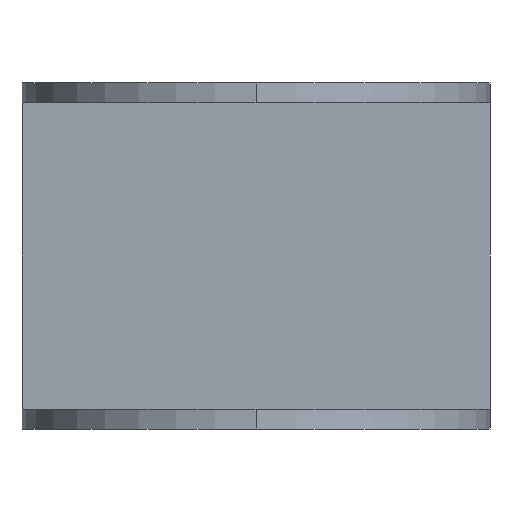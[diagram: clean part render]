
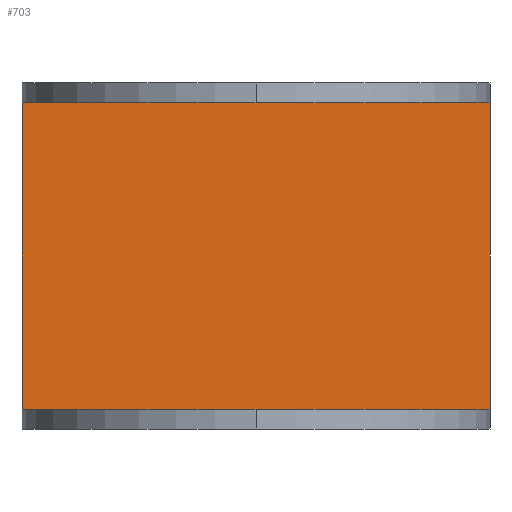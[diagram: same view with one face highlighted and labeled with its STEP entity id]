
A CAD part, front view. The second image highlights one B-rep face of the part: STEP entity #703.
In plain terms, the highlighted planar face has unit normal (0, -1, 0).
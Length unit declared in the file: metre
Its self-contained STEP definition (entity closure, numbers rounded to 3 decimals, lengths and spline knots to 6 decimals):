
#100=ORIENTED_EDGE('',*,*,#276,.F.);
#101=ORIENTED_EDGE('',*,*,#277,.T.);
#102=ORIENTED_EDGE('',*,*,#278,.T.);
#103=ORIENTED_EDGE('',*,*,#279,.F.);
#276=EDGE_CURVE('',#364,#365,#436,.T.);
#277=EDGE_CURVE('',#364,#366,#437,.T.);
#278=EDGE_CURVE('',#366,#367,#438,.T.);
#279=EDGE_CURVE('',#365,#367,#439,.T.);
#364=VERTEX_POINT('',#1081);
#365=VERTEX_POINT('',#1082);
#366=VERTEX_POINT('',#1084);
#367=VERTEX_POINT('',#1086);
#436=LINE('',#1080,#468);
#437=LINE('',#1083,#469);
#438=LINE('',#1085,#470);
#439=LINE('',#1087,#471);
#468=VECTOR('',#857,1.);
#469=VECTOR('',#858,1.);
#470=VECTOR('',#859,1.);
#471=VECTOR('',#860,1.);
#497=EDGE_LOOP('',(#100,#101,#102,#103));
#595=FACE_BOUND('',#497,.T.);
#693=PLANE('',#754);
#703=ADVANCED_FACE('',(#595),#693,.F.);
#754=AXIS2_PLACEMENT_3D('',#1079,#855,#856);
#855=DIRECTION('',(0.,1.,0.));
#856=DIRECTION('',(0.,0.,1.));
#857=DIRECTION('',(1.,0.,0.));
#858=DIRECTION('',(0.,0.,-1.));
#859=DIRECTION('',(1.,0.,0.));
#860=DIRECTION('',(0.,0.,-1.));
#1079=CARTESIAN_POINT('',(0.0375,0.09,0.052345));
#1080=CARTESIAN_POINT('',(0.0375,0.09,0.052305));
#1081=CARTESIAN_POINT('',(0.,0.09,0.052305));
#1082=CARTESIAN_POINT('',(0.075,0.09,0.052305));
#1083=CARTESIAN_POINT('',(0.,0.09,0.052345));
#1084=CARTESIAN_POINT('',(0.,0.09,0.003145));
#1085=CARTESIAN_POINT('',(0.0375,0.09,0.003145));
#1086=CARTESIAN_POINT('',(0.075,0.09,0.003145));
#1087=CARTESIAN_POINT('',(0.075,0.09,0.052345));
